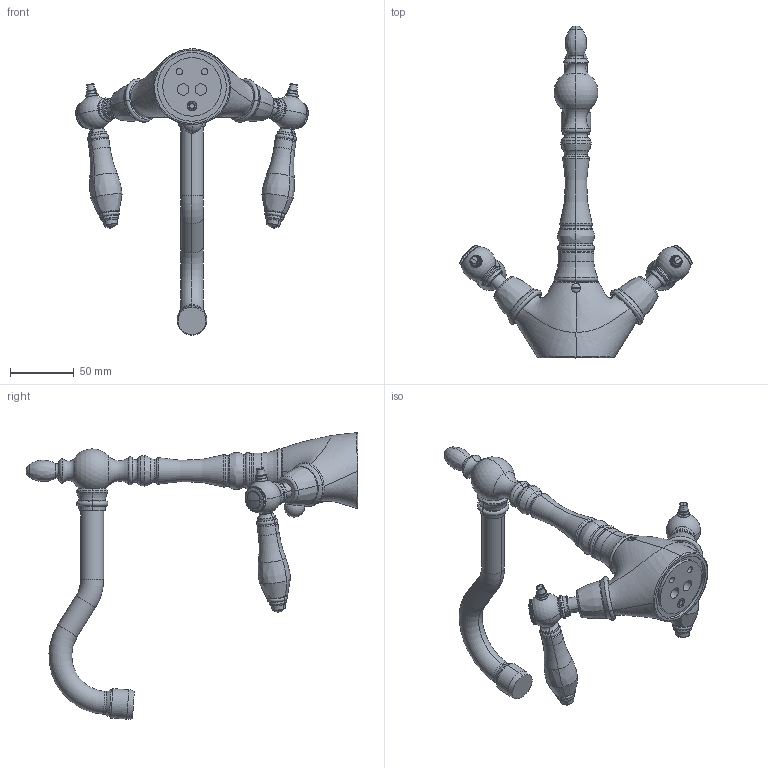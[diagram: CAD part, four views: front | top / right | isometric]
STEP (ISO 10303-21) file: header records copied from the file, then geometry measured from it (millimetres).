
FILE_DESCRIPTION((''),'2;1');
FILE_NAME('F5411_FILE_3D','2013-07-30T',('ivanv'),(''),'PRO/ENGINEER BY PARAMETRIC TECHNOLOGY CORPORATION, 2012130','PRO/ENGINEER BY PARAMETRIC TECHNOLOGY CORPORATION, 2012130','');
FILE_SCHEMA(('CONFIG_CONTROL_DESIGN'));
Products named in the file (1): F5411_FILE_3D
Bounding box: 182.79 x 261 x 225.15 mm (x, y, z)
Volume: 368650.1 mm3; surface area: 90629.4 mm2
Topology: 4 solids, 9 shells, 1934 faces, 4938 edges, 3047 vertices
Faces by surface type: plane 1080, cylinder 470, torus 188, cone 126, bspline 44, sphere 26
Entity records: 80158 total; most frequent: CARTESIAN_POINT 34276, ORIENTED_EDGE 9816, DIRECTION 9531, EDGE_CURVE 4908, AXIS2_PLACEMENT_3D 3759, VERTEX_POINT 3043, VECTOR 2013, LINE 2013
